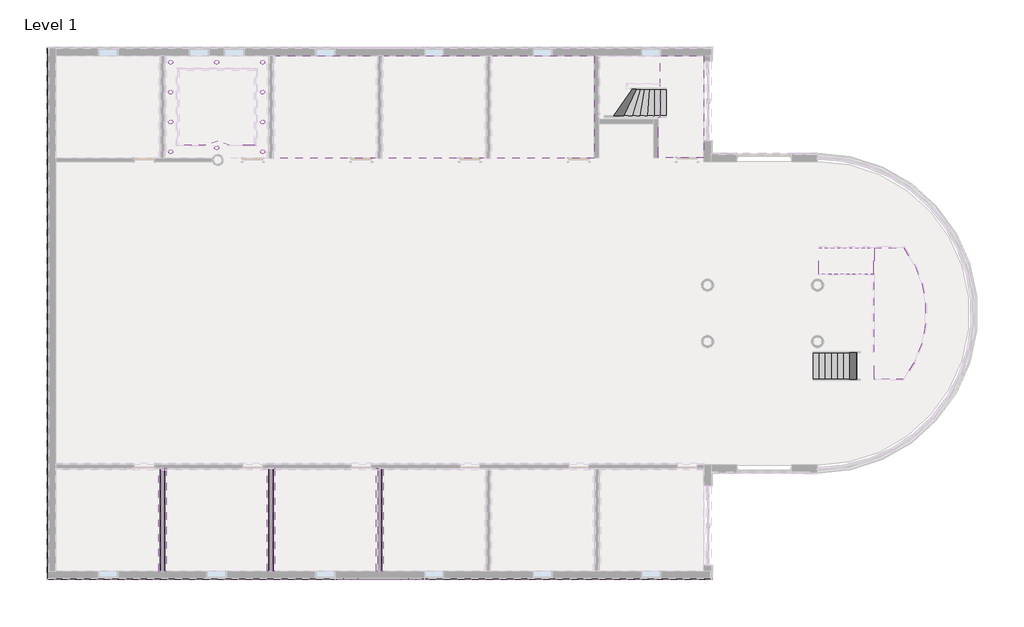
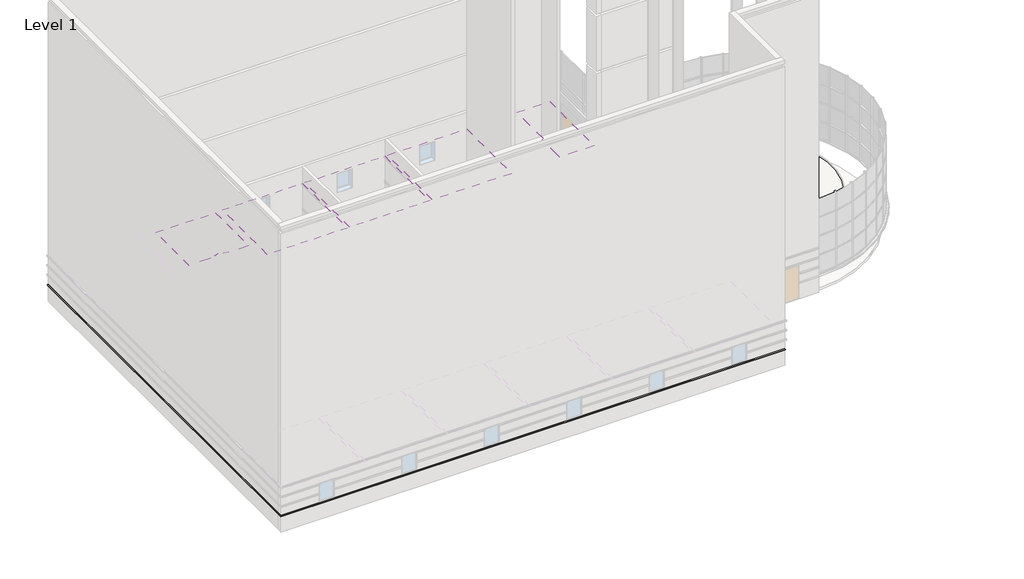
# One storey, part 16 of 20: 20 proxies, 10 light fixtures, 5 coverings, 3 stair flights, 1 slab.
"""IFC4 building model written with IfcOpenShell, lengths in millimetres."""

from ifc_helpers import new_model, si_unit, point, frame, frame_2d, origin, place, context, project, spatial, polyline, circle_curve, trimmed, segment, composite_curve, outline, extrude, faceted_brep, transform, mapped, element, save
from components import light_fixture_0a2228b3, non_monolithic_landing_b48be56e, stair_flight_ee5305ab, stair_flight_e05df6d8, stair_flight_de9e9dea

model = new_model("IFC4")

# Units and contexts
model_context = context("Model", 3, world=origin())
ifc_project = project(units=[si_unit("LENGTHUNIT", "METRE", prefix="MILLI")], contexts=[model_context])

# Site, building, storey
site = spatial("IfcSite", under=ifc_project)
building = spatial("IfcBuilding", under=site)
storey = spatial("IfcBuildingStorey", under=building, Name="Level 1", Elevation=0.0)

# Proxies
placement = place(None, origin())
element("IfcBuildingElementProxy", 1, Name="Wall Sweeps", at=placement, inside=storey, context=model_context, shape_type="Brep", body=[
    faceted_brep([(12969.0589721, -14605.7351681, 1085.85), (13061.1339721, -14697.8101681, 1085.85), (13096.0589721, -14732.7351681, 1041.4), (13096.0589721, -14732.7351681, 1016.0), (12969.0589721, -14605.7351681, 1016.0), (-17326.7910279, -14605.7351681, 1085.85), (-17326.7910279, -14605.7351681, 1016.0), (-17453.7910279, -14732.7351681, 1016.0), (-17453.7910279, -14732.7351681, 1041.4), (-17418.8660279, -14697.8101681, 1085.85)], [[[0, 1, 2, 3, 4]], [[5, 6, 7, 8, 9]], [[1, 0, 5, 9]], [[2, 1, 9, 8]], [[3, 2, 8, 7]], [[4, 3, 7, 6]], [[0, 4, 6, 5]]]),
])
element("IfcBuildingElementProxy", 2, Name="Wall Sweeps", at=placement, inside=storey, context=model_context, shape_type="Brep", body=[
    faceted_brep([(-17326.7910279, -14605.7351681, 1085.85), (-17418.8660279, -14697.8101681, 1085.85), (-17453.7910279, -14732.7351681, 1041.4), (-17453.7910279, -14732.7351681, 1016.0), (-17326.7910279, -14605.7351681, 1016.0), (-17326.7910279, 9594.1148319, 1085.85), (-17326.7910279, 9594.1148319, 1016.0), (-17453.7910279, 9721.1148319, 1016.0), (-17453.7910279, 9721.1148319, 1041.4), (-17418.8660279, 9686.1898319, 1085.85), (-17326.7910279, -14345.3851681, 1085.85), (-17326.7910279, -14345.3851681, 1016.0)], [[[0, 1, 2, 3, 4]], [[5, 6, 7, 8, 9]], [[1, 0, 10, 5, 9]], [[2, 1, 9, 8]], [[3, 2, 8, 7]], [[4, 3, 7, 6, 11]], [[0, 4, 11, 6, 5, 10]]]),
])
element("IfcBuildingElementProxy", 3, Name="Wall Sweeps", at=placement, inside=storey, context=model_context, shape_type="SweptSolid", body=[
    extrude(outline(composite_curve([segment(polyline([(146.05, -12256.8451947), (0.0, -12256.8451947), (0.0, -12240.9701946), (25.4, -12240.9701946), (26.9875, -12242.5576946), (138.1125, -12242.5576946), (139.7, -12240.9701946), (184.15, -12240.9701946), (184.15, -12247.3201946), (178.4425393, -12249.7662491)]), True, "CONTINUOUS"), segment(trimmed(circle_curve(frame_2d((173.434375, -12253.6701946)), 6.35), [point((178.4425393, -12249.7662491))], [point((169.9015472, -12248.3936779))], True, "CARTESIAN"), True, "CONTINUOUS"), segment(polyline([(169.9015472, -12248.3936779), (159.8244174, -12255.2349707)]), True, "CONTINUOUS"), segment(trimmed(circle_curve(frame_2d((154.447453, -12247.3201946)), 9.5684601), [point((159.8244174, -12255.2349707))], [point((147.838329, -12254.2393642))], False, "CARTESIAN"), True, "CONTINUOUS"), segment(trimmed(circle_curve(frame_2d((147.2928122, -12254.8159494)), 0.79375), [point((147.838329, -12254.2393642))], [point((146.5164076, -12254.6509195))], True, "CARTESIAN"), True, "CONTINUOUS"), segment(polyline([(146.5164076, -12254.6509195), (146.05, -12256.8451947)]), True, "CONTINUOUS")], self_intersect=False)), frame((0.0, -14345.3851681, 0.0), z_axis=(0.0, 1.0, 0.0), x_axis=(0.0, 0.0, 1.0)), (0.0, 0.0, 1.0), 4721.225),
])
element("IfcBuildingElementProxy", 4, Name="Wall Sweeps", at=placement, inside=storey, context=model_context, shape_type="SweptSolid", body=[
    extrude(outline(composite_curve([segment(polyline([(146.05, -12069.5201944), (146.5164076, -12071.7144696)]), True, "CONTINUOUS"), segment(trimmed(circle_curve(frame_2d((147.2928122, -12071.5494397)), 0.79375), [point((146.5164076, -12071.7144696))], [point((147.838329, -12072.126025))], True, "CARTESIAN"), True, "CONTINUOUS"), segment(trimmed(circle_curve(frame_2d((154.447453, -12079.0451946)), 9.5684601), [point((147.838329, -12072.126025))], [point((159.8244174, -12071.1304184))], False, "CARTESIAN"), True, "CONTINUOUS"), segment(polyline([(159.8244174, -12071.1304184), (169.9015472, -12077.9717112)]), True, "CONTINUOUS"), segment(trimmed(circle_curve(frame_2d((173.434375, -12072.6951946)), 6.35), [point((169.9015472, -12077.9717112))], [point((178.4425393, -12076.59914))], True, "CARTESIAN"), True, "CONTINUOUS"), segment(polyline([(178.4425393, -12076.59914), (184.15, -12079.0451946), (184.15, -12085.3951946), (139.7, -12085.3951946), (138.1125, -12083.8076946), (26.9875, -12083.8076946), (25.4, -12085.3951946), (0.0, -12085.3951946), (0.0, -12069.5201944), (146.05, -12069.5201944)]), True, "CONTINUOUS")], self_intersect=False)), frame((0.0, -14345.3851681, 0.0), z_axis=(0.0, 1.0, 0.0), x_axis=(0.0, 0.0, 1.0)), (0.0, 0.0, 1.0), 4721.225),
])
element("IfcBuildingElementProxy", 5, Name="Wall Sweeps", at=placement, inside=storey, context=model_context, shape_type="SweptSolid", body=[
    extrude(outline(composite_curve([segment(polyline([(781.05, -12242.5576946), (882.65, -12242.5576946), (884.2375, -12240.9701946), (901.7, -12240.9701946), (901.7, -12261.6076946), (882.65, -12261.6076946), (882.65, -12259.2264446)]), True, "CONTINUOUS"), segment(trimmed(circle_curve(frame_2d((880.26875, -12254.2063288)), 5.55625), [point((882.65, -12259.2264446))], [point((876.3398879, -12258.1351908))], False, "CARTESIAN"), True, "CONTINUOUS"), segment(trimmed(circle_curve(frame_2d((867.5864328, -12265.9220138)), 11.7156984), [point((876.3398879, -12258.1351908))], [point((867.56875, -12254.2063288))], True, "CARTESIAN"), True, "CONTINUOUS"), segment(polyline([(867.56875, -12254.2063288), (867.56875, -12252.0826946), (796.13125, -12252.0826946), (796.13125, -12254.2063288)]), True, "CONTINUOUS"), segment(trimmed(circle_curve(frame_2d((796.1135672, -12265.9220138)), 11.7156984), [point((796.13125, -12254.2063288))], [point((787.3601121, -12258.1351908))], True, "CARTESIAN"), True, "CONTINUOUS"), segment(trimmed(circle_curve(frame_2d((783.43125, -12254.2063288)), 5.55625), [point((787.3601121, -12258.1351908))], [point((781.05, -12259.2264446))], False, "CARTESIAN"), True, "CONTINUOUS"), segment(polyline([(781.05, -12259.2264446), (781.05, -12261.6076946), (762.0, -12261.6076946), (762.0, -12240.9701946), (779.4625, -12240.9701946), (781.05, -12242.5576946)]), True, "CONTINUOUS")], self_intersect=False)), frame((0.0, -14345.3851681, 0.0), z_axis=(0.0, 1.0, 0.0), x_axis=(0.0, 0.0, 1.0)), (0.0, 0.0, 1.0), 4721.225),
])
element("IfcBuildingElementProxy", 6, Name="Wall Sweeps", at=placement, inside=storey, context=model_context, shape_type="SweptSolid", body=[
    extrude(outline(composite_curve([segment(polyline([(781.05, -12083.8076946), (779.4625, -12085.3951946), (762.0, -12085.3951946), (762.0, -12064.7576946), (781.05, -12064.7576946), (781.05, -12067.1389446)]), True, "CONTINUOUS"), segment(trimmed(circle_curve(frame_2d((783.43125, -12072.1590603)), 5.55625), [point((781.05, -12067.1389446))], [point((787.3601121, -12068.2301983))], False, "CARTESIAN"), True, "CONTINUOUS"), segment(trimmed(circle_curve(frame_2d((796.1135672, -12060.4433753)), 11.7156984), [point((787.3601121, -12068.2301983))], [point((796.13125, -12072.1590603))], True, "CARTESIAN"), True, "CONTINUOUS"), segment(polyline([(796.13125, -12072.1590603), (796.13125, -12074.2826946), (867.56875, -12074.2826946), (867.56875, -12072.1590603)]), True, "CONTINUOUS"), segment(trimmed(circle_curve(frame_2d((867.5864328, -12060.4433753)), 11.7156984), [point((867.56875, -12072.1590603))], [point((876.3398879, -12068.2301983))], True, "CARTESIAN"), True, "CONTINUOUS"), segment(trimmed(circle_curve(frame_2d((880.26875, -12072.1590603)), 5.55625), [point((876.3398879, -12068.2301983))], [point((882.65, -12067.1389446))], False, "CARTESIAN"), True, "CONTINUOUS"), segment(polyline([(882.65, -12067.1389446), (882.65, -12064.7576946), (901.7, -12064.7576946), (901.7, -12085.3951946), (884.2375, -12085.3951946), (882.65, -12083.8076946), (781.05, -12083.8076946)]), True, "CONTINUOUS")], self_intersect=False)), frame((0.0, -14345.3851681, 0.0), z_axis=(0.0, 1.0, 0.0), x_axis=(0.0, 0.0, 1.0)), (0.0, 0.0, 1.0), 4721.225),
])
element("IfcBuildingElementProxy", 7, Name="Wall Sweeps", at=placement, inside=storey, context=model_context, shape_type="SweptSolid", body=[
    extrude(outline(composite_curve([segment(polyline([(2438.399973, -12309.1633571), (2438.399973, -12329.8701946), (2431.2481102, -12329.8701946), (2431.2481102, -12327.3548352)]), True, "CONTINUOUS"), segment(trimmed(circle_curve(frame_2d((2423.9641253, -12331.1893356)), 8.2316359), [point((2431.2481102, -12327.3548352))], [point((2427.7986257, -12323.9053507))], True, "CARTESIAN"), True, "CONTINUOUS"), segment(trimmed(circle_curve(frame_2d((2429.6314026, -12316.0499845)), 8.0663405), [point((2427.7986257, -12323.9053507))], [point((2421.6202934, -12315.1076578))], False, "CARTESIAN"), True, "CONTINUOUS"), segment(polyline([(2421.6202934, -12315.1076578), (2421.6202934, -12312.339094), (2416.1698146, -12312.339094)]), True, "CONTINUOUS"), segment(trimmed(circle_curve(frame_2d((2417.0589994, -12290.5017471)), 21.8554426), [point((2416.1698146, -12312.339094))], [point((2396.8442936, -12298.8099384))], False, "CARTESIAN"), True, "CONTINUOUS"), segment(polyline([(2396.8442936, -12298.8099384), (2392.1194168, -12291.5677091)]), True, "CONTINUOUS"), segment(trimmed(circle_curve(frame_2d((2350.2346746, -12313.0198493)), 47.0587499), [point((2392.1194168, -12291.5677091))], [point((2353.4554653, -12266.0714473))], True, "CARTESIAN"), True, "CONTINUOUS"), segment(polyline([(2353.4554653, -12266.0714473), (2353.4554653, -12262.8440724), (2348.4207604, -12262.8440724), (2348.4207604, -12259.2552315)]), True, "CONTINUOUS"), segment(trimmed(circle_curve(frame_2d((2347.9606001, -12248.767665)), 10.4976568), [point((2348.4207604, -12259.2552315))], [point((2338.0157037, -12252.1291877))], False, "CARTESIAN"), True, "CONTINUOUS"), segment(polyline([(2338.0157037, -12252.1291877), (2333.7297498, -12252.1291877)]), True, "CONTINUOUS"), segment(trimmed(circle_curve(frame_2d((2327.2589154, -12255.4064811)), 7.2534372), [point((2333.7297498, -12252.1291877))], [point((2327.275, -12248.1530618))], True, "CARTESIAN"), True, "CONTINUOUS"), segment(polyline([(2327.275, -12248.1530618), (2327.275, -12240.9701946), (2351.8919306, -12240.9701946), (2438.399973, -12309.1633571)]), True, "CONTINUOUS")], self_intersect=False)), frame((0.0, -14345.3851681, 0.0), z_axis=(0.0, 1.0, 0.0), x_axis=(0.0, 0.0, 1.0)), (0.0, 0.0, 1.0), 4721.225),
])
element("IfcBuildingElementProxy", 8, Name="Wall Sweeps", at=placement, inside=storey, context=model_context, shape_type="SweptSolid", body=[
    extrude(outline(composite_curve([segment(polyline([(2438.399973, -12017.202032), (2351.8919306, -12085.3951946), (2327.275, -12085.3951946), (2327.275, -12078.2123274)]), True, "CONTINUOUS"), segment(trimmed(circle_curve(frame_2d((2327.2589154, -12070.958908)), 7.2534372), [point((2327.275, -12078.2123274))], [point((2333.7297498, -12074.2362015))], True, "CARTESIAN"), True, "CONTINUOUS"), segment(polyline([(2333.7297498, -12074.2362015), (2338.0157037, -12074.2362015)]), True, "CONTINUOUS"), segment(trimmed(circle_curve(frame_2d((2347.9606001, -12077.5977241)), 10.4976568), [point((2338.0157037, -12074.2362015))], [point((2348.4207604, -12067.1101577))], False, "CARTESIAN"), True, "CONTINUOUS"), segment(polyline([(2348.4207604, -12067.1101577), (2348.4207604, -12063.5213168), (2353.4554653, -12063.5213168), (2353.4554653, -12060.2939418)]), True, "CONTINUOUS"), segment(trimmed(circle_curve(frame_2d((2350.2346746, -12013.3455399)), 47.0587499), [point((2353.4554653, -12060.2939418))], [point((2392.1194168, -12034.79768))], True, "CARTESIAN"), True, "CONTINUOUS"), segment(polyline([(2392.1194168, -12034.79768), (2396.8442936, -12027.5554507)]), True, "CONTINUOUS"), segment(trimmed(circle_curve(frame_2d((2417.0589994, -12035.863642)), 21.8554426), [point((2396.8442936, -12027.5554507))], [point((2416.1698146, -12014.0262951))], False, "CARTESIAN"), True, "CONTINUOUS"), segment(polyline([(2416.1698146, -12014.0262951), (2421.6202934, -12014.0262951), (2421.6202934, -12011.2577313)]), True, "CONTINUOUS"), segment(trimmed(circle_curve(frame_2d((2429.6314026, -12010.3154046)), 8.0663405), [point((2421.6202934, -12011.2577313))], [point((2427.7986257, -12002.4600384))], False, "CARTESIAN"), True, "CONTINUOUS"), segment(trimmed(circle_curve(frame_2d((2423.9641253, -11995.1760535)), 8.2316359), [point((2427.7986257, -12002.4600384))], [point((2431.2481102, -11999.010554))], True, "CARTESIAN"), True, "CONTINUOUS"), segment(polyline([(2431.2481102, -11999.010554), (2431.2481102, -11996.4951946), (2438.399973, -11996.4951946), (2438.399973, -12017.202032)]), True, "CONTINUOUS")], self_intersect=False)), frame((0.0, -14345.3851681, 0.0), z_axis=(0.0, 1.0, 0.0), x_axis=(0.0, 0.0, 1.0)), (0.0, 0.0, 1.0), 4721.225),
])
element("IfcBuildingElementProxy", 9, Name="Wall Sweeps", at=placement, inside=storey, context=model_context, shape_type="SweptSolid", body=[
    extrude(outline(composite_curve([segment(polyline([(146.05, -7264.6868613), (0.0, -7264.6868613), (0.0, -7248.8118612), (25.4, -7248.8118612), (26.9875, -7250.3993612), (138.1125, -7250.3993612), (139.7, -7248.8118612), (184.15, -7248.8118612), (184.15, -7255.1618612), (178.4425393, -7257.6079158)]), True, "CONTINUOUS"), segment(trimmed(circle_curve(frame_2d((173.434375, -7261.5118612)), 6.35), [point((178.4425393, -7257.6079158))], [point((169.9015472, -7256.2353446))], True, "CARTESIAN"), True, "CONTINUOUS"), segment(polyline([(169.9015472, -7256.2353446), (159.8244174, -7263.0766374)]), True, "CONTINUOUS"), segment(trimmed(circle_curve(frame_2d((154.447453, -7255.1618612)), 9.5684601), [point((159.8244174, -7263.0766374))], [point((147.838329, -7262.0810308))], False, "CARTESIAN"), True, "CONTINUOUS"), segment(trimmed(circle_curve(frame_2d((147.2928122, -7262.6576161)), 0.79375), [point((147.838329, -7262.0810308))], [point((146.5164076, -7262.4925862))], True, "CARTESIAN"), True, "CONTINUOUS"), segment(polyline([(146.5164076, -7262.4925862), (146.05, -7264.6868613)]), True, "CONTINUOUS")], self_intersect=False)), frame((0.0, -14345.3851681, 0.0), z_axis=(0.0, 1.0, 0.0), x_axis=(0.0, 0.0, 1.0)), (0.0, 0.0, 1.0), 4721.225),
])
element("IfcBuildingElementProxy", 10, Name="Wall Sweeps", at=placement, inside=storey, context=model_context, shape_type="SweptSolid", body=[
    extrude(outline(composite_curve([segment(polyline([(146.05, -7077.3618611), (146.5164076, -7079.5561363)]), True, "CONTINUOUS"), segment(trimmed(circle_curve(frame_2d((147.2928122, -7079.3911064)), 0.79375), [point((146.5164076, -7079.5561363))], [point((147.838329, -7079.9676916))], True, "CARTESIAN"), True, "CONTINUOUS"), segment(trimmed(circle_curve(frame_2d((154.447453, -7086.8868612)), 9.5684601), [point((147.838329, -7079.9676916))], [point((159.8244174, -7078.972085))], False, "CARTESIAN"), True, "CONTINUOUS"), segment(polyline([(159.8244174, -7078.972085), (169.9015472, -7085.8133779)]), True, "CONTINUOUS"), segment(trimmed(circle_curve(frame_2d((173.434375, -7080.5368612)), 6.35), [point((169.9015472, -7085.8133779))], [point((178.4425393, -7084.4408067))], True, "CARTESIAN"), True, "CONTINUOUS"), segment(polyline([(178.4425393, -7084.4408067), (184.15, -7086.8868612), (184.15, -7093.2368612), (139.7, -7093.2368612), (138.1125, -7091.6493612), (26.9875, -7091.6493612), (25.4, -7093.2368612), (0.0, -7093.2368612), (0.0, -7077.3618611), (146.05, -7077.3618611)]), True, "CONTINUOUS")], self_intersect=False)), frame((0.0, -14345.3851681, 0.0), z_axis=(0.0, 1.0, 0.0), x_axis=(0.0, 0.0, 1.0)), (0.0, 0.0, 1.0), 4721.225),
])
element("IfcBuildingElementProxy", 11, Name="Wall Sweeps", at=placement, inside=storey, context=model_context, shape_type="SweptSolid", body=[
    extrude(outline(composite_curve([segment(polyline([(781.05, -7250.3993612), (882.65, -7250.3993612), (884.2375, -7248.8118612), (901.7, -7248.8118612), (901.7, -7269.4493612), (882.65, -7269.4493612), (882.65, -7267.0681112)]), True, "CONTINUOUS"), segment(trimmed(circle_curve(frame_2d((880.26875, -7262.0479954)), 5.55625), [point((882.65, -7267.0681112))], [point((876.3398879, -7265.9768575))], False, "CARTESIAN"), True, "CONTINUOUS"), segment(trimmed(circle_curve(frame_2d((867.5864328, -7273.7636805)), 11.7156984), [point((876.3398879, -7265.9768575))], [point((867.56875, -7262.0479954))], True, "CARTESIAN"), True, "CONTINUOUS"), segment(polyline([(867.56875, -7262.0479954), (867.56875, -7259.9243612), (796.13125, -7259.9243612), (796.13125, -7262.0479954)]), True, "CONTINUOUS"), segment(trimmed(circle_curve(frame_2d((796.1135672, -7273.7636805)), 11.7156984), [point((796.13125, -7262.0479954))], [point((787.3601121, -7265.9768575))], True, "CARTESIAN"), True, "CONTINUOUS"), segment(trimmed(circle_curve(frame_2d((783.43125, -7262.0479954)), 5.55625), [point((787.3601121, -7265.9768575))], [point((781.05, -7267.0681112))], False, "CARTESIAN"), True, "CONTINUOUS"), segment(polyline([(781.05, -7267.0681112), (781.05, -7269.4493612), (762.0, -7269.4493612), (762.0, -7248.8118612), (779.4625, -7248.8118612), (781.05, -7250.3993612)]), True, "CONTINUOUS")], self_intersect=False)), frame((0.0, -14345.3851681, 0.0), z_axis=(0.0, 1.0, 0.0), x_axis=(0.0, 0.0, 1.0)), (0.0, 0.0, 1.0), 4721.225),
])
element("IfcBuildingElementProxy", 12, Name="Wall Sweeps", at=placement, inside=storey, context=model_context, shape_type="SweptSolid", body=[
    extrude(outline(composite_curve([segment(polyline([(781.05, -7091.6493612), (779.4625, -7093.2368612), (762.0, -7093.2368612), (762.0, -7072.5993612), (781.05, -7072.5993612), (781.05, -7074.9806112)]), True, "CONTINUOUS"), segment(trimmed(circle_curve(frame_2d((783.43125, -7080.000727)), 5.55625), [point((781.05, -7074.9806112))], [point((787.3601121, -7076.071865))], False, "CARTESIAN"), True, "CONTINUOUS"), segment(trimmed(circle_curve(frame_2d((796.1135672, -7068.285042)), 11.7156984), [point((787.3601121, -7076.071865))], [point((796.13125, -7080.000727))], True, "CARTESIAN"), True, "CONTINUOUS"), segment(polyline([(796.13125, -7080.000727), (796.13125, -7082.1243612), (867.56875, -7082.1243612), (867.56875, -7080.000727)]), True, "CONTINUOUS"), segment(trimmed(circle_curve(frame_2d((867.5864328, -7068.285042)), 11.7156984), [point((867.56875, -7080.000727))], [point((876.3398879, -7076.071865))], True, "CARTESIAN"), True, "CONTINUOUS"), segment(trimmed(circle_curve(frame_2d((880.26875, -7080.000727)), 5.55625), [point((876.3398879, -7076.071865))], [point((882.65, -7074.9806112))], False, "CARTESIAN"), True, "CONTINUOUS"), segment(polyline([(882.65, -7074.9806112), (882.65, -7072.5993612), (901.7, -7072.5993612), (901.7, -7093.2368612), (884.2375, -7093.2368612), (882.65, -7091.6493612), (781.05, -7091.6493612)]), True, "CONTINUOUS")], self_intersect=False)), frame((0.0, -14345.3851681, 0.0), z_axis=(0.0, 1.0, 0.0), x_axis=(0.0, 0.0, 1.0)), (0.0, 0.0, 1.0), 4721.225),
])
element("IfcBuildingElementProxy", 13, Name="Wall Sweeps", at=placement, inside=storey, context=model_context, shape_type="SweptSolid", body=[
    extrude(outline(composite_curve([segment(polyline([(2438.399973, -7317.0050238), (2438.399973, -7337.7118612), (2431.2481102, -7337.7118612), (2431.2481102, -7335.1965018)]), True, "CONTINUOUS"), segment(trimmed(circle_curve(frame_2d((2423.9641253, -7339.0310023)), 8.2316359), [point((2431.2481102, -7335.1965018))], [point((2427.7986257, -7331.7470174))], True, "CARTESIAN"), True, "CONTINUOUS"), segment(trimmed(circle_curve(frame_2d((2429.6314026, -7323.8916512)), 8.0663405), [point((2427.7986257, -7331.7470174))], [point((2421.6202934, -7322.9493245))], False, "CARTESIAN"), True, "CONTINUOUS"), segment(polyline([(2421.6202934, -7322.9493245), (2421.6202934, -7320.1807607), (2416.1698146, -7320.1807607)]), True, "CONTINUOUS"), segment(trimmed(circle_curve(frame_2d((2417.0589994, -7298.3434138)), 21.8554426), [point((2416.1698146, -7320.1807607))], [point((2396.8442936, -7306.6516051))], False, "CARTESIAN"), True, "CONTINUOUS"), segment(polyline([(2396.8442936, -7306.6516051), (2392.1194168, -7299.4093758)]), True, "CONTINUOUS"), segment(trimmed(circle_curve(frame_2d((2350.2346746, -7320.8615159)), 47.0587499), [point((2392.1194168, -7299.4093758))], [point((2353.4554653, -7273.9131139))], True, "CARTESIAN"), True, "CONTINUOUS"), segment(polyline([(2353.4554653, -7273.9131139), (2353.4554653, -7270.685739), (2348.4207604, -7270.685739), (2348.4207604, -7267.0968981)]), True, "CONTINUOUS"), segment(trimmed(circle_curve(frame_2d((2347.9606001, -7256.6093317)), 10.4976568), [point((2348.4207604, -7267.0968981))], [point((2338.0157037, -7259.9708543))], False, "CARTESIAN"), True, "CONTINUOUS"), segment(polyline([(2338.0157037, -7259.9708543), (2333.7297498, -7259.9708543)]), True, "CONTINUOUS"), segment(trimmed(circle_curve(frame_2d((2327.2589154, -7263.2481478)), 7.2534372), [point((2333.7297498, -7259.9708543))], [point((2327.275, -7255.9947284))], True, "CARTESIAN"), True, "CONTINUOUS"), segment(polyline([(2327.275, -7255.9947284), (2327.275, -7248.8118612), (2351.8919306, -7248.8118612), (2438.399973, -7317.0050238)]), True, "CONTINUOUS")], self_intersect=False)), frame((0.0, -14345.3851681, 0.0), z_axis=(0.0, 1.0, 0.0), x_axis=(0.0, 0.0, 1.0)), (0.0, 0.0, 1.0), 4721.225),
])
element("IfcBuildingElementProxy", 14, Name="Wall Sweeps", at=placement, inside=storey, context=model_context, shape_type="SweptSolid", body=[
    extrude(outline(composite_curve([segment(polyline([(2438.399973, -7025.0436987), (2351.8919306, -7093.2368612), (2327.275, -7093.2368612), (2327.275, -7086.053994)]), True, "CONTINUOUS"), segment(trimmed(circle_curve(frame_2d((2327.2589154, -7078.8005747)), 7.2534372), [point((2327.275, -7086.053994))], [point((2333.7297498, -7082.0778681))], True, "CARTESIAN"), True, "CONTINUOUS"), segment(polyline([(2333.7297498, -7082.0778681), (2338.0157037, -7082.0778681)]), True, "CONTINUOUS"), segment(trimmed(circle_curve(frame_2d((2347.9606001, -7085.4393908)), 10.4976568), [point((2338.0157037, -7082.0778681))], [point((2348.4207604, -7074.9518243))], False, "CARTESIAN"), True, "CONTINUOUS"), segment(polyline([(2348.4207604, -7074.9518243), (2348.4207604, -7071.3629834), (2353.4554653, -7071.3629834), (2353.4554653, -7068.1356085)]), True, "CONTINUOUS"), segment(trimmed(circle_curve(frame_2d((2350.2346746, -7021.1872065)), 47.0587499), [point((2353.4554653, -7068.1356085))], [point((2392.1194168, -7042.6393467))], True, "CARTESIAN"), True, "CONTINUOUS"), segment(polyline([(2392.1194168, -7042.6393467), (2396.8442936, -7035.3971174)]), True, "CONTINUOUS"), segment(trimmed(circle_curve(frame_2d((2417.0589994, -7043.7053087)), 21.8554426), [point((2396.8442936, -7035.3971174))], [point((2416.1698146, -7021.8679618))], False, "CARTESIAN"), True, "CONTINUOUS"), segment(polyline([(2416.1698146, -7021.8679618), (2421.6202934, -7021.8679618), (2421.6202934, -7019.099398)]), True, "CONTINUOUS"), segment(trimmed(circle_curve(frame_2d((2429.6314026, -7018.1570713)), 8.0663405), [point((2421.6202934, -7019.099398))], [point((2427.7986257, -7010.3017051))], False, "CARTESIAN"), True, "CONTINUOUS"), segment(trimmed(circle_curve(frame_2d((2423.9641253, -7003.0177202)), 8.2316359), [point((2427.7986257, -7010.3017051))], [point((2431.2481102, -7006.8522206))], True, "CARTESIAN"), True, "CONTINUOUS"), segment(polyline([(2431.2481102, -7006.8522206), (2431.2481102, -7004.3368612), (2438.399973, -7004.3368612), (2438.399973, -7025.0436987)]), True, "CONTINUOUS")], self_intersect=False)), frame((0.0, -14345.3851681, 0.0), z_axis=(0.0, 1.0, 0.0), x_axis=(0.0, 0.0, 1.0)), (0.0, 0.0, 1.0), 4721.225),
])
element("IfcBuildingElementProxy", 15, Name="Wall Sweeps", at=placement, inside=storey, context=model_context, shape_type="SweptSolid", body=[
    extrude(outline(composite_curve([segment(polyline([(146.05, -2272.528528), (0.0, -2272.528528), (0.0, -2256.6535279), (25.4, -2256.6535279), (26.9875, -2258.2410279), (138.1125, -2258.2410279), (139.7, -2256.6535279), (184.15, -2256.6535279), (184.15, -2263.0035279), (178.4425393, -2265.4495825)]), True, "CONTINUOUS"), segment(trimmed(circle_curve(frame_2d((173.434375, -2269.3535279)), 6.35), [point((178.4425393, -2265.4495825))], [point((169.9015472, -2264.0770113))], True, "CARTESIAN"), True, "CONTINUOUS"), segment(polyline([(169.9015472, -2264.0770113), (159.8244174, -2270.9183041)]), True, "CONTINUOUS"), segment(trimmed(circle_curve(frame_2d((154.447453, -2263.0035279)), 9.5684601), [point((159.8244174, -2270.9183041))], [point((147.838329, -2269.9226975))], False, "CARTESIAN"), True, "CONTINUOUS"), segment(trimmed(circle_curve(frame_2d((147.2928122, -2270.4992828)), 0.79375), [point((147.838329, -2269.9226975))], [point((146.5164076, -2270.3342529))], True, "CARTESIAN"), True, "CONTINUOUS"), segment(polyline([(146.5164076, -2270.3342529), (146.05, -2272.528528)]), True, "CONTINUOUS")], self_intersect=False)), frame((0.0, -14345.3851681, 0.0), z_axis=(0.0, 1.0, 0.0), x_axis=(0.0, 0.0, 1.0)), (0.0, 0.0, 1.0), 4721.225),
])
element("IfcBuildingElementProxy", 16, Name="Wall Sweeps", at=placement, inside=storey, context=model_context, shape_type="SweptSolid", body=[
    extrude(outline(composite_curve([segment(polyline([(146.05, -2085.2035278), (146.5164076, -2087.3978029)]), True, "CONTINUOUS"), segment(trimmed(circle_curve(frame_2d((147.2928122, -2087.232773)), 0.79375), [point((146.5164076, -2087.3978029))], [point((147.838329, -2087.8093583))], True, "CARTESIAN"), True, "CONTINUOUS"), segment(trimmed(circle_curve(frame_2d((154.447453, -2094.7285279)), 9.5684601), [point((147.838329, -2087.8093583))], [point((159.8244174, -2086.8137517))], False, "CARTESIAN"), True, "CONTINUOUS"), segment(polyline([(159.8244174, -2086.8137517), (169.9015472, -2093.6550445)]), True, "CONTINUOUS"), segment(trimmed(circle_curve(frame_2d((173.434375, -2088.3785279)), 6.35), [point((169.9015472, -2093.6550445))], [point((178.4425393, -2092.2824733))], True, "CARTESIAN"), True, "CONTINUOUS"), segment(polyline([(178.4425393, -2092.2824733), (184.15, -2094.7285279), (184.15, -2101.0785279), (139.7, -2101.0785279), (138.1125, -2099.4910279), (26.9875, -2099.4910279), (25.4, -2101.0785279), (0.0, -2101.0785279), (0.0, -2085.2035278), (146.05, -2085.2035278)]), True, "CONTINUOUS")], self_intersect=False)), frame((0.0, -14345.3851681, 0.0), z_axis=(0.0, 1.0, 0.0), x_axis=(0.0, 0.0, 1.0)), (0.0, 0.0, 1.0), 4721.225),
])
element("IfcBuildingElementProxy", 17, Name="Wall Sweeps", at=placement, inside=storey, context=model_context, shape_type="SweptSolid", body=[
    extrude(outline(composite_curve([segment(polyline([(781.05, -2258.2410279), (882.65, -2258.2410279), (884.2375, -2256.6535279), (901.7, -2256.6535279), (901.7, -2277.2910279), (882.65, -2277.2910279), (882.65, -2274.9097779)]), True, "CONTINUOUS"), segment(trimmed(circle_curve(frame_2d((880.26875, -2269.8896621)), 5.55625), [point((882.65, -2274.9097779))], [point((876.3398879, -2273.8185242))], False, "CARTESIAN"), True, "CONTINUOUS"), segment(trimmed(circle_curve(frame_2d((867.5864328, -2281.6053472)), 11.7156984), [point((876.3398879, -2273.8185242))], [point((867.56875, -2269.8896621))], True, "CARTESIAN"), True, "CONTINUOUS"), segment(polyline([(867.56875, -2269.8896621), (867.56875, -2267.7660279), (796.13125, -2267.7660279), (796.13125, -2269.8896621)]), True, "CONTINUOUS"), segment(trimmed(circle_curve(frame_2d((796.1135672, -2281.6053472)), 11.7156984), [point((796.13125, -2269.8896621))], [point((787.3601121, -2273.8185242))], True, "CARTESIAN"), True, "CONTINUOUS"), segment(trimmed(circle_curve(frame_2d((783.43125, -2269.8896621)), 5.55625), [point((787.3601121, -2273.8185242))], [point((781.05, -2274.9097779))], False, "CARTESIAN"), True, "CONTINUOUS"), segment(polyline([(781.05, -2274.9097779), (781.05, -2277.2910279), (762.0, -2277.2910279), (762.0, -2256.6535279), (779.4625, -2256.6535279), (781.05, -2258.2410279)]), True, "CONTINUOUS")], self_intersect=False)), frame((0.0, -14345.3851681, 0.0), z_axis=(0.0, 1.0, 0.0), x_axis=(0.0, 0.0, 1.0)), (0.0, 0.0, 1.0), 4721.225),
])
element("IfcBuildingElementProxy", 18, Name="Wall Sweeps", at=placement, inside=storey, context=model_context, shape_type="SweptSolid", body=[
    extrude(outline(composite_curve([segment(polyline([(781.05, -2099.4910279), (779.4625, -2101.0785279), (762.0, -2101.0785279), (762.0, -2080.4410279), (781.05, -2080.4410279), (781.05, -2082.8222779)]), True, "CONTINUOUS"), segment(trimmed(circle_curve(frame_2d((783.43125, -2087.8423937)), 5.55625), [point((781.05, -2082.8222779))], [point((787.3601121, -2083.9135316))], False, "CARTESIAN"), True, "CONTINUOUS"), segment(trimmed(circle_curve(frame_2d((796.1135672, -2076.1267086)), 11.7156984), [point((787.3601121, -2083.9135316))], [point((796.13125, -2087.8423937))], True, "CARTESIAN"), True, "CONTINUOUS"), segment(polyline([(796.13125, -2087.8423937), (796.13125, -2089.9660279), (867.56875, -2089.9660279), (867.56875, -2087.8423937)]), True, "CONTINUOUS"), segment(trimmed(circle_curve(frame_2d((867.5864328, -2076.1267086)), 11.7156984), [point((867.56875, -2087.8423937))], [point((876.3398879, -2083.9135316))], True, "CARTESIAN"), True, "CONTINUOUS"), segment(trimmed(circle_curve(frame_2d((880.26875, -2087.8423937)), 5.55625), [point((876.3398879, -2083.9135316))], [point((882.65, -2082.8222779))], False, "CARTESIAN"), True, "CONTINUOUS"), segment(polyline([(882.65, -2082.8222779), (882.65, -2080.4410279), (901.7, -2080.4410279), (901.7, -2101.0785279), (884.2375, -2101.0785279), (882.65, -2099.4910279), (781.05, -2099.4910279)]), True, "CONTINUOUS")], self_intersect=False)), frame((0.0, -14345.3851681, 0.0), z_axis=(0.0, 1.0, 0.0), x_axis=(0.0, 0.0, 1.0)), (0.0, 0.0, 1.0), 4721.225),
])
element("IfcBuildingElementProxy", 19, Name="Wall Sweeps", at=placement, inside=storey, context=model_context, shape_type="SweptSolid", body=[
    extrude(outline(composite_curve([segment(polyline([(2438.399973, -2324.8466905), (2438.399973, -2345.5535279), (2431.2481102, -2345.5535279), (2431.2481102, -2343.0381685)]), True, "CONTINUOUS"), segment(trimmed(circle_curve(frame_2d((2423.9641253, -2346.8726689)), 8.2316359), [point((2431.2481102, -2343.0381685))], [point((2427.7986257, -2339.588684))], True, "CARTESIAN"), True, "CONTINUOUS"), segment(trimmed(circle_curve(frame_2d((2429.6314026, -2331.7333178)), 8.0663405), [point((2427.7986257, -2339.588684))], [point((2421.6202934, -2330.7909911))], False, "CARTESIAN"), True, "CONTINUOUS"), segment(polyline([(2421.6202934, -2330.7909911), (2421.6202934, -2328.0224274), (2416.1698146, -2328.0224274)]), True, "CONTINUOUS"), segment(trimmed(circle_curve(frame_2d((2417.0589994, -2306.1850804)), 21.8554426), [point((2416.1698146, -2328.0224274))], [point((2396.8442936, -2314.4932717))], False, "CARTESIAN"), True, "CONTINUOUS"), segment(polyline([(2396.8442936, -2314.4932717), (2392.1194168, -2307.2510424)]), True, "CONTINUOUS"), segment(trimmed(circle_curve(frame_2d((2350.2346746, -2328.7031826)), 47.0587499), [point((2392.1194168, -2307.2510424))], [point((2353.4554653, -2281.7547806))], True, "CARTESIAN"), True, "CONTINUOUS"), segment(polyline([(2353.4554653, -2281.7547806), (2353.4554653, -2278.5274057), (2348.4207604, -2278.5274057), (2348.4207604, -2274.9385648)]), True, "CONTINUOUS"), segment(trimmed(circle_curve(frame_2d((2347.9606001, -2264.4509983)), 10.4976568), [point((2348.4207604, -2274.9385648))], [point((2338.0157037, -2267.812521))], False, "CARTESIAN"), True, "CONTINUOUS"), segment(polyline([(2338.0157037, -2267.812521), (2333.7297498, -2267.812521)]), True, "CONTINUOUS"), segment(trimmed(circle_curve(frame_2d((2327.2589154, -2271.0898145)), 7.2534372), [point((2333.7297498, -2267.812521))], [point((2327.275, -2263.8363951))], True, "CARTESIAN"), True, "CONTINUOUS"), segment(polyline([(2327.275, -2263.8363951), (2327.275, -2256.6535279), (2351.8919306, -2256.6535279), (2438.399973, -2324.8466905)]), True, "CONTINUOUS")], self_intersect=False)), frame((0.0, -14345.3851681, 0.0), z_axis=(0.0, 1.0, 0.0), x_axis=(0.0, 0.0, 1.0)), (0.0, 0.0, 1.0), 4721.225),
])
element("IfcBuildingElementProxy", 20, Name="Wall Sweeps", at=placement, inside=storey, context=model_context, shape_type="SweptSolid", body=[
    extrude(outline(composite_curve([segment(polyline([(2438.399973, -2032.8853653), (2351.8919306, -2101.0785279), (2327.275, -2101.0785279), (2327.275, -2093.8956607)]), True, "CONTINUOUS"), segment(trimmed(circle_curve(frame_2d((2327.2589154, -2086.6422413)), 7.2534372), [point((2327.275, -2093.8956607))], [point((2333.7297498, -2089.9195348))], True, "CARTESIAN"), True, "CONTINUOUS"), segment(polyline([(2333.7297498, -2089.9195348), (2338.0157037, -2089.9195348)]), True, "CONTINUOUS"), segment(trimmed(circle_curve(frame_2d((2347.9606001, -2093.2810575)), 10.4976568), [point((2338.0157037, -2089.9195348))], [point((2348.4207604, -2082.793491))], False, "CARTESIAN"), True, "CONTINUOUS"), segment(polyline([(2348.4207604, -2082.793491), (2348.4207604, -2079.2046501), (2353.4554653, -2079.2046501), (2353.4554653, -2075.9772752)]), True, "CONTINUOUS"), segment(trimmed(circle_curve(frame_2d((2350.2346746, -2029.0288732)), 47.0587499), [point((2353.4554653, -2075.9772752))], [point((2392.1194168, -2050.4810134))], True, "CARTESIAN"), True, "CONTINUOUS"), segment(polyline([(2392.1194168, -2050.4810134), (2396.8442936, -2043.2387841)]), True, "CONTINUOUS"), segment(trimmed(circle_curve(frame_2d((2417.0589994, -2051.5469754)), 21.8554426), [point((2396.8442936, -2043.2387841))], [point((2416.1698146, -2029.7096284))], False, "CARTESIAN"), True, "CONTINUOUS"), segment(polyline([(2416.1698146, -2029.7096284), (2421.6202934, -2029.7096284), (2421.6202934, -2026.9410646)]), True, "CONTINUOUS"), segment(trimmed(circle_curve(frame_2d((2429.6314026, -2025.998738)), 8.0663405), [point((2421.6202934, -2026.9410646))], [point((2427.7986257, -2018.1433718))], False, "CARTESIAN"), True, "CONTINUOUS"), segment(trimmed(circle_curve(frame_2d((2423.9641253, -2010.8593868)), 8.2316359), [point((2427.7986257, -2018.1433718))], [point((2431.2481102, -2014.6938873))], True, "CARTESIAN"), True, "CONTINUOUS"), segment(polyline([(2431.2481102, -2014.6938873), (2431.2481102, -2012.1785279), (2438.399973, -2012.1785279), (2438.399973, -2032.8853653)]), True, "CONTINUOUS")], self_intersect=False)), frame((0.0, -14345.3851681, 0.0), z_axis=(0.0, 1.0, 0.0), x_axis=(0.0, 0.0, 1.0)), (0.0, 0.0, 1.0), 4721.225),
])

# Coverings
element("IfcCovering", 21, ObjectType="2' x 2' ACT System", at=placement, inside=storey, context=model_context, shape_type="SweptSolid", body=[
    extrude(outline(composite_curve([segment(polyline([(-11475.7951946, 5222.1398319), (-11475.7951946, 8724.1648319), (-7858.4118612, 8724.1648319), (-7858.4118612, 5222.1398319), (-9084.2803391, 5222.1398319)]), True, "CONTINUOUS"), segment(trimmed(circle_curve(frame_2d((-9622.6535279, 4534.7523319)), 873.125), [point((-9084.2803391, 5222.1398319))], [point((-10161.0267167, 5222.1398319))], True, "CARTESIAN"), True, "CONTINUOUS"), segment(polyline([(-10161.0267167, 5222.1398319), (-11475.7951946, 5222.1398319)]), True, "CONTINUOUS")], self_intersect=False)), frame((0.0, 0.0, 2895.6), z_axis=(0.0, 0.0, 1.0), x_axis=(1.0, 0.0, 0.0)), (0.0, 0.0, 1.0), 57.15),
])
element("IfcCovering", 22, ObjectType="2' x 4' ACT System", at=placement, inside=storey, context=model_context, shape_type="SweptSolid", body=[
    extrude(outline(polyline([(-7093.2368612, 9333.7648319), (-2256.6535279, 9333.7648319), (-2256.6535279, 4612.5398319), (-7093.2368612, 4612.5398319), (-7093.2368612, 9333.7648319)])), frame((0.0, 0.0, 2438.4), z_axis=(0.0, 0.0, 1.0), x_axis=(1.0, 0.0, 0.0)), (0.0, 0.0, 1.0), 57.15),
])
element("IfcCovering", 23, ObjectType="2' x 4' ACT System", at=placement, inside=storey, context=model_context, shape_type="SweptSolid", body=[
    extrude(outline(polyline([(-2101.0785279, 9333.7648319), (2735.5048054, 9333.7648319), (2735.5048054, 4612.5398319), (-2101.0785279, 4612.5398319), (-2101.0785279, 9333.7648319)])), frame((0.0, 0.0, 2438.4), z_axis=(0.0, 0.0, 1.0), x_axis=(1.0, 0.0, 0.0)), (0.0, 0.0, 1.0), 57.15),
])
element("IfcCovering", 24, ObjectType="2' x 4' ACT System", at=placement, inside=storey, context=model_context, shape_type="SweptSolid", body=[
    extrude(outline(polyline([(2891.0798054, 9333.7648319), (7689.5631388, 9333.7648319), (7689.5631388, 4612.5398319), (2891.0798054, 4612.5398319), (2891.0798054, 9333.7648319)])), frame((0.0, 0.0, 2438.4), z_axis=(0.0, 0.0, 1.0), x_axis=(1.0, 0.0, 0.0)), (0.0, 0.0, 1.0), 57.15),
])
element("IfcCovering", 25, ObjectType="2' x 4' ACT System", at=placement, inside=storey, context=model_context, shape_type="SweptSolid", body=[
    extrude(outline(polyline([(7883.2381388, 6410.2148319), (7883.2381388, 9333.7648319), (7883.7381388, 9333.7648319), (7883.7381388, 6410.2148319), (7883.2381388, 6410.2148319)])), frame((0.0, 0.0, 2438.4), z_axis=(0.0, 0.0, 1.0), x_axis=(1.0, 0.0, 0.0)), (0.0, 0.0, 1.0), 57.15),
    extrude(outline(polyline([(12708.7089721, 4650.6398319), (10616.9131388, 4650.6398319), (10616.9131388, 6514.3648319), (10718.2353862, 6514.3648319), (10718.2353862, 9333.7648319), (12708.7089721, 9333.7648319), (12708.7089721, 4650.6398319)])), frame((0.0, 0.0, 2438.4), z_axis=(0.0, 0.0, 1.0), x_axis=(1.0, 0.0, 0.0)), (0.0, 0.0, 1.0), 57.15),
])

# Light fixtures
light_fixture_shape = light_fixture_0a2228b3(model_context)
element("IfcLightFixture", 26, ObjectType="Downlight - Recessed Can : 8\" Incandescent - 277V", at=placement, inside=storey, context=model_context, shape_type="MappedRepresentation", body=[
    mapped(light_fixture_shape, transform((-11780.5951946, 9028.9648319, 2438.4), x_axis=(1.0, 0.0, 0.0), y_axis=(0.0, -1.0, 0.0), z_axis=(0.0, 0.0, -1.0))),
])
element("IfcLightFixture", 27, ObjectType="Downlight - Recessed Can : 8\" Incandescent - 277V", at=placement, inside=storey, context=model_context, shape_type="MappedRepresentation", body=[
    mapped(light_fixture_shape, transform((-7553.6118612, 9028.9648319, 2438.4), x_axis=(1.0, 0.0, 0.0), y_axis=(0.0, -1.0, 0.0), z_axis=(0.0, 0.0, -1.0))),
])
element("IfcLightFixture", 28, ObjectType="Downlight - Recessed Can : 8\" Incandescent - 277V", at=placement, inside=storey, context=model_context, shape_type="MappedRepresentation", body=[
    mapped(light_fixture_shape, transform((-9667.1035279, 9028.9648319, 2438.4), x_axis=(1.0, 0.0, 0.0), y_axis=(0.0, -1.0, 0.0), z_axis=(0.0, 0.0, -1.0))),
])
element("IfcLightFixture", 29, ObjectType="Downlight - Recessed Can : 8\" Incandescent - 277V", at=placement, inside=storey, context=model_context, shape_type="MappedRepresentation", body=[
    mapped(light_fixture_shape, transform((-11780.5951946, 4917.3398319, 2438.4), x_axis=(1.0, 0.0, 0.0), y_axis=(0.0, -1.0, 0.0), z_axis=(0.0, 0.0, -1.0))),
])
element("IfcLightFixture", 30, ObjectType="Downlight - Recessed Can : 8\" Incandescent - 277V", at=placement, inside=storey, context=model_context, shape_type="MappedRepresentation", body=[
    mapped(light_fixture_shape, transform((-7553.6118612, 4917.3398319, 2438.4), x_axis=(1.0, 0.0, 0.0), y_axis=(0.0, -1.0, 0.0), z_axis=(0.0, 0.0, -1.0))),
])
element("IfcLightFixture", 31, ObjectType="Downlight - Recessed Can : 8\" Incandescent - 277V", at=placement, inside=storey, context=model_context, shape_type="MappedRepresentation", body=[
    mapped(light_fixture_shape, transform((-11780.5951946, 7658.4231653, 2438.4), x_axis=(1.0, 0.0, 0.0), y_axis=(0.0, -1.0, 0.0), z_axis=(0.0, 0.0, -1.0))),
])
element("IfcLightFixture", 32, ObjectType="Downlight - Recessed Can : 8\" Incandescent - 277V", at=placement, inside=storey, context=model_context, shape_type="MappedRepresentation", body=[
    mapped(light_fixture_shape, transform((-7553.6118612, 7658.4231653, 2438.4), x_axis=(1.0, 0.0, 0.0), y_axis=(0.0, -1.0, 0.0), z_axis=(0.0, 0.0, -1.0))),
])
element("IfcLightFixture", 33, ObjectType="Downlight - Recessed Can : 8\" Incandescent - 277V", at=placement, inside=storey, context=model_context, shape_type="MappedRepresentation", body=[
    mapped(light_fixture_shape, transform((-11780.5951946, 6287.8814986, 2438.4), x_axis=(1.0, 0.0, 0.0), y_axis=(0.0, -1.0, 0.0), z_axis=(0.0, 0.0, -1.0))),
])
element("IfcLightFixture", 34, ObjectType="Downlight - Recessed Can : 8\" Incandescent - 277V", at=placement, inside=storey, context=model_context, shape_type="MappedRepresentation", body=[
    mapped(light_fixture_shape, transform((-7553.6118612, 6287.8814986, 2438.4), x_axis=(1.0, 0.0, 0.0), y_axis=(0.0, -1.0, 0.0), z_axis=(0.0, 0.0, -1.0))),
])
element("IfcLightFixture", 35, ObjectType="Downlight - Recessed Can : 8\" Incandescent - 277V", at=placement, inside=storey, context=model_context, shape_type="MappedRepresentation", body=[
    mapped(light_fixture_shape, transform((-9667.1035279, 5095.1398319, 2438.4), x_axis=(1.0, 0.0, 0.0), y_axis=(0.0, -1.0, 0.0), z_axis=(0.0, 0.0, -1.0))),
])

# Slab
non_monolithic_landing_shape = non_monolithic_landing_b48be56e(model_context)
element("IfcSlab", 36, ObjectType="Non-Monolithic Landing", at=placement, inside=storey, context=model_context, shape_type="MappedRepresentation", body=[
    mapped(non_monolithic_landing_shape, transform((0.0, 0.0, 0.0), x_axis=(1.0, 0.0, 0.0), y_axis=(0.0, 1.0, 0.0), z_axis=(0.0, 0.0, 1.0))),
])

# Stair flights
stair_flight_shape = stair_flight_ee5305ab(model_context)
element("IfcStairFlight", 37, ObjectType="2\" Tread 1\" Nosing 1/4\" Riser", at=placement, inside=storey, context=model_context, shape_type="MappedRepresentation", body=[
    mapped(stair_flight_shape, transform((0.0, 0.0, 0.0), x_axis=(1.0, 0.0, 0.0), y_axis=(0.0, 1.0, 0.0), z_axis=(0.0, 0.0, 1.0))),
])
stair_flight_2_shape = stair_flight_e05df6d8(model_context)
element("IfcStairFlight", 38, ObjectType="2\" Tread 1\" Nosing 1/4\" Riser", at=placement, inside=storey, context=model_context, shape_type="MappedRepresentation", body=[
    mapped(stair_flight_2_shape, transform((0.0, 0.0, 0.0), x_axis=(1.0, 0.0, 0.0), y_axis=(0.0, 1.0, 0.0), z_axis=(0.0, 0.0, 1.0))),
])
stair_flight_3_shape = stair_flight_de9e9dea(model_context)
element("IfcStairFlight", 39, ObjectType="2\" Tread 1\" Nosing 1/4\" Riser", at=placement, inside=storey, context=model_context, shape_type="MappedRepresentation", body=[
    mapped(stair_flight_3_shape, transform((0.0, 0.0, 0.0), x_axis=(1.0, 0.0, 0.0), y_axis=(0.0, 1.0, 0.0), z_axis=(0.0, 0.0, 1.0))),
])

save(model, "model.ifc")
